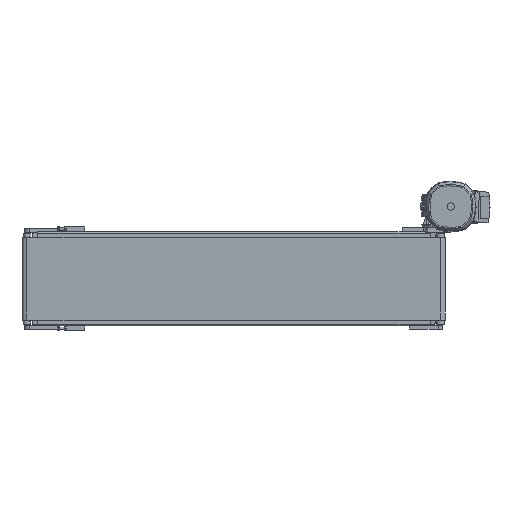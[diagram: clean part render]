
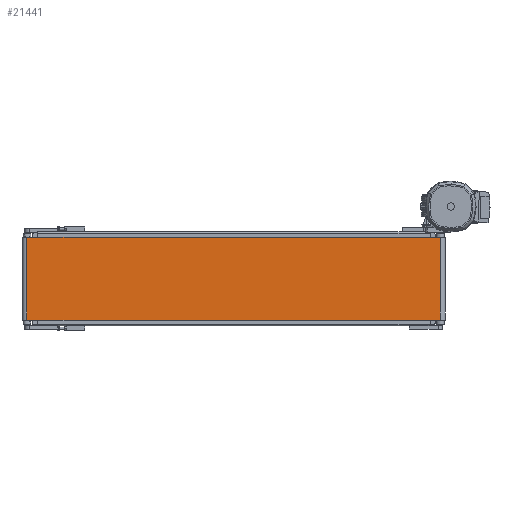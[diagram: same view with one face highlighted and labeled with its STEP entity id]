
A CAD part, front view. The second image highlights one B-rep face of the part: STEP entity #21441.
In plain terms, the highlighted planar face has unit normal (0, -1, 0).
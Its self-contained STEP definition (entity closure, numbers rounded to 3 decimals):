
#1024 = ORIENTED_EDGE ( 'NONE', *, *, #72606, .T. ) ;
#9697 = DIRECTION ( 'NONE',  ( 0., 0., -1. ) ) ;
#10574 = CARTESIAN_POINT ( 'NONE',  ( 500., -12., 100. ) ) ;
#11659 = VECTOR ( 'NONE', #41006, 1000. ) ;
#15588 = LINE ( 'NONE', #10574, #40166 ) ;
#21441 = ADVANCED_FACE ( 'NONE', ( #47753 ), #88726, .F. ) ;
#21638 = CARTESIAN_POINT ( 'NONE',  ( -500., -12., 100. ) ) ;
#26443 = DIRECTION ( 'NONE',  ( 0., 0., 1. ) ) ;
#26501 = LINE ( 'NONE', #54640, #11659 ) ;
#26719 = EDGE_CURVE ( 'NONE', #73427, #52385, #36318, .T. ) ;
#31355 = VECTOR ( 'NONE', #86513, 1000. ) ;
#33747 = CARTESIAN_POINT ( 'NONE',  ( 500., -12., -100. ) ) ;
#36318 = LINE ( 'NONE', #64040, #75870 ) ;
#37847 = CARTESIAN_POINT ( 'NONE',  ( -500., -12., 100. ) ) ;
#39080 = EDGE_CURVE ( 'NONE', #88171, #63224, #26501, .T. ) ;
#40166 = VECTOR ( 'NONE', #9697, 1000. ) ;
#40429 = ORIENTED_EDGE ( 'NONE', *, *, #39080, .T. ) ;
#41006 = DIRECTION ( 'NONE',  ( 1., 0., 0. ) ) ;
#44745 = DIRECTION ( 'NONE',  ( 0., 1., 0. ) ) ;
#47133 = ORIENTED_EDGE ( 'NONE', *, *, #26719, .F. ) ;
#47753 = FACE_OUTER_BOUND ( 'NONE', #50530, .T. ) ;
#48464 = CARTESIAN_POINT ( 'NONE',  ( -500., -12., -100. ) ) ;
#50530 = EDGE_LOOP ( 'NONE', ( #40429, #75965, #47133, #1024 ) ) ;
#52385 = VERTEX_POINT ( 'NONE', #83720 ) ;
#53683 = CARTESIAN_POINT ( 'NONE',  ( -500., -12., 100. ) ) ;
#54397 = EDGE_CURVE ( 'NONE', #52385, #63224, #15588, .T. ) ;
#54640 = CARTESIAN_POINT ( 'NONE',  ( -500., -12., -100. ) ) ;
#63224 = VERTEX_POINT ( 'NONE', #33747 ) ;
#64040 = CARTESIAN_POINT ( 'NONE',  ( -500., -12., 100. ) ) ;
#64691 = LINE ( 'NONE', #37847, #31355 ) ;
#72606 = EDGE_CURVE ( 'NONE', #73427, #88171, #64691, .T. ) ;
#73427 = VERTEX_POINT ( 'NONE', #21638 ) ;
#75870 = VECTOR ( 'NONE', #80389, 1000. ) ;
#75965 = ORIENTED_EDGE ( 'NONE', *, *, #54397, .F. ) ;
#80389 = DIRECTION ( 'NONE',  ( 1., 0., 0. ) ) ;
#80423 = AXIS2_PLACEMENT_3D ( 'NONE', #53683, #44745, #26443 ) ;
#83720 = CARTESIAN_POINT ( 'NONE',  ( 500., -12., 100. ) ) ;
#86513 = DIRECTION ( 'NONE',  ( 0., 0., -1. ) ) ;
#88171 = VERTEX_POINT ( 'NONE', #48464 ) ;
#88726 = PLANE ( 'NONE',  #80423 ) ;
